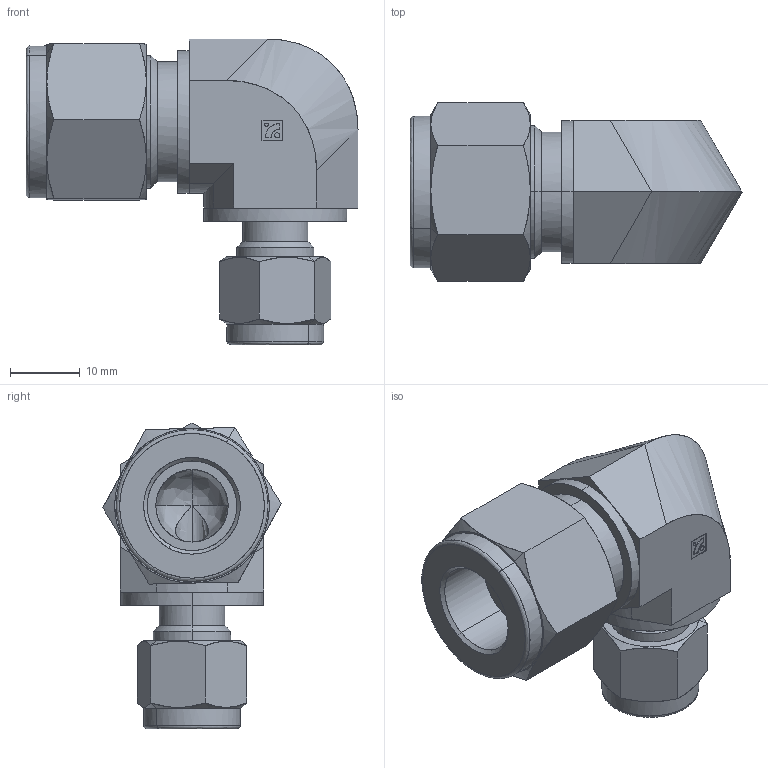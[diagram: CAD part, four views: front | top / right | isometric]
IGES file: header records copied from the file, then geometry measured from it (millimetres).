
Global section: file name: SRUE-8-4.igs; native system:  By UGS Corp.; preprocessor: XPlus GENERIC/IGES 3.0; author: Jeon; organization: BMT; date: 20120503.190218; units: millimetre
Bounding box: 47.73 x 25.66 x 43.97 mm (x, y, z)
Surface area: 8847.7 mm2 (no closed solid volume)
Topology: 0 solids, 0 shells, 132 faces, 572 edges, 568 vertices
Faces by surface type: bspline 132
